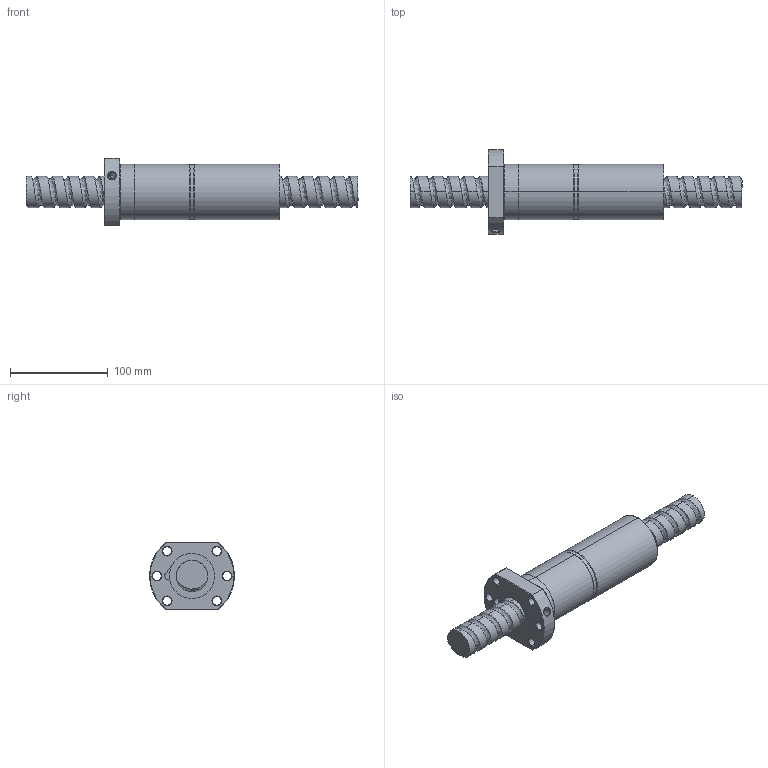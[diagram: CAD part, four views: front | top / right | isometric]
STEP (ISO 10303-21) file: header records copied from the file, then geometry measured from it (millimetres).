
FILE_DESCRIPTION (( 'STEP AP214' ), '1' );
FILE_NAME ('FDDC03216T4-F-C.STEP', '2010-07-06T05:17:41', ( 'XPAUTO' ), ( 'XPAUTO' ), 'SwSTEP 2.0', 'SolidWorks 2007', '' );
FILE_SCHEMA (( 'AUTOMOTIVE_DESIGN' ));
Length unit declared in the file: millimetre
Products named in the file (3): FDDC03216T4-F-C; FDDC03216T4-F-C.sldasm-Part-2_預設; FDDC03216T4-F-C.sldasm-Part-1_預設
Assembly tree (2 placements, depth 2):
  FDDC03216T4-F-C
    FDDC03216T4-F-C.sldasm-Part-2_預設
    FDDC03216T4-F-C.sldasm-Part-1_預設
Bounding box: 340 x 86.7 x 69 mm (x, y, z)
Volume: 596614.9 mm3; surface area: 102651.2 mm2
Topology: 2 solids, 2 shells, 147 faces, 367 edges, 229 vertices
Faces by surface type: cylinder 86, cone 24, plane 22, torus 10, bspline 5
Entity records: 27168 total; most frequent: CARTESIAN_POINT 23700, ORIENTED_EDGE 734, DIRECTION 667, EDGE_CURVE 367, AXIS2_PLACEMENT_3D 270, VERTEX_POINT 229, EDGE_LOOP 168, FACE_OUTER_BOUND 147
